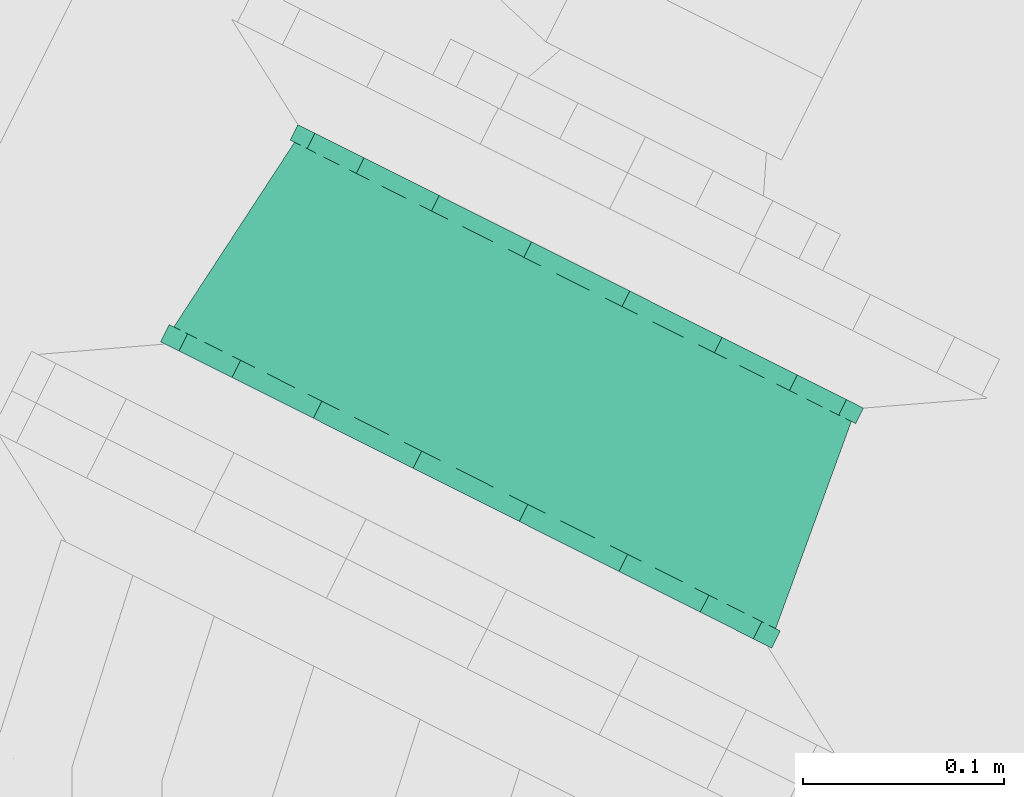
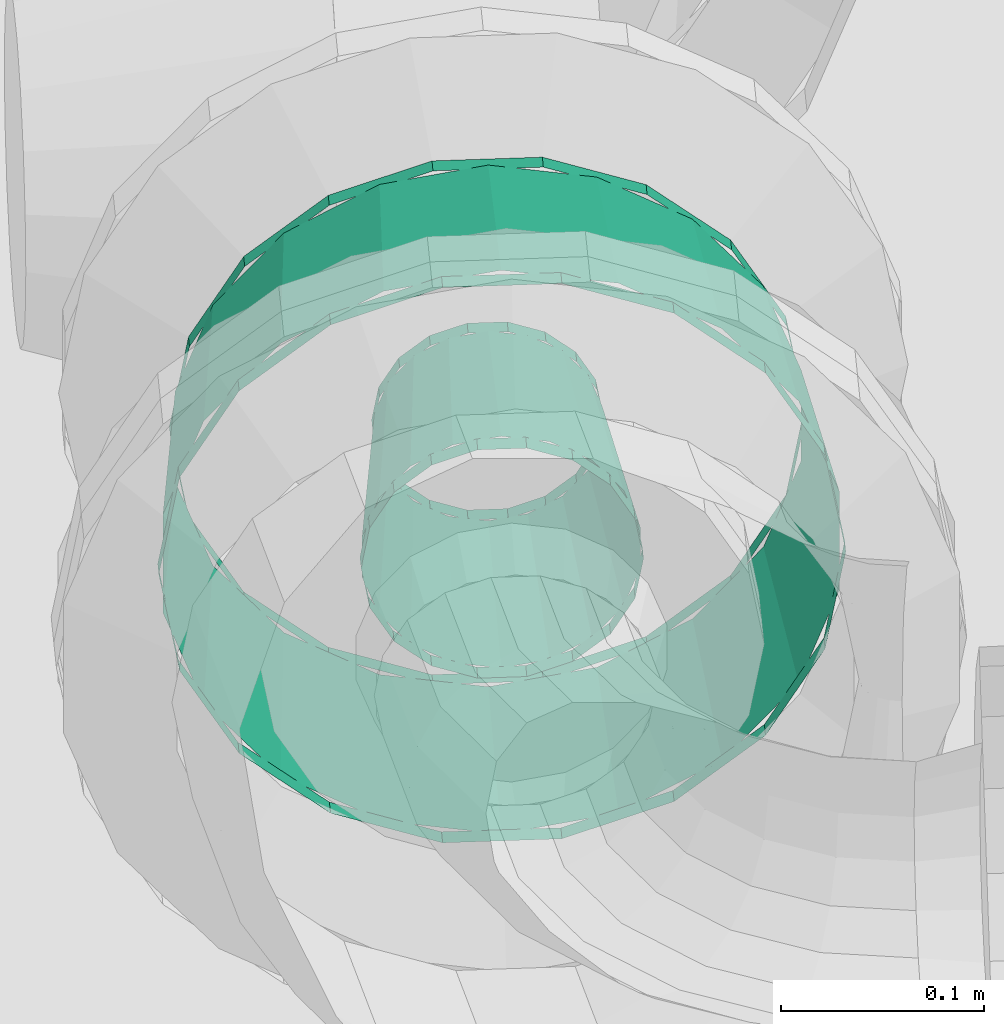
# One storey, part 108 of 206: 1 flow fitting.
"""IFC2X3 building model written with IfcOpenShell, lengths in metres."""

from ifc_helpers import new_model, si_unit, derived_unit, direction, frame, origin, place, context, subcontext, project, spatial, face_set, surface_model, source, transform, mapped, material, type_object, type_shapes, element, save


model = new_model("IFC2X3")

# Units and contexts
model_context = context("Model", 3, precision=5.2338327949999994e-05, world=origin(), true_north=direction((0.0, 1.0)))
body_context = subcontext(model_context, "Body", "Model", "MODEL_VIEW")
ifc_project = project(units=[si_unit("LENGTHUNIT", "METRE"), si_unit("AREAUNIT", "SQUARE_METRE"), si_unit("VOLUMEUNIT", "CUBIC_METRE"), si_unit("MASSUNIT", "GRAM", prefix="KILO"), si_unit("PLANEANGLEUNIT", "RADIAN"), derived_unit("THERMALTRANSMITTANCEUNIT", [(si_unit("MASSUNIT", "GRAM", prefix="KILO"), 1), (si_unit("THERMODYNAMICTEMPERATUREUNIT", "KELVIN"), -1), (si_unit("TIMEUNIT", "SECOND"), -3)])], contexts=[model_context])

# Site, building, storey
site_placement = place(None, frame((0.0, 0.0, 0.0), z_axis=(0.0, 0.0, 1.0), x_axis=(0.8939966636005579, -0.4480736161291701, 0.0)))
site = spatial("IfcSite", under=ifc_project, at=site_placement, Name="Default", CompositionType="ELEMENT")
building_placement = place(site_placement, origin())
building = spatial("IfcBuilding", under=site, at=building_placement, CompositionType="ELEMENT")
storey_placement = place(building_placement, origin())
storey = spatial("IfcBuildingStorey", under=building, at=storey_placement, Name="Erdgeschoss", CompositionType="ELEMENT", Elevation=0.0)

# Flow fitting
ifc_material = material(Name="IfcSurfaceStyle #1741")
distribution_element_type = type_object("IfcDistributionElementType", Name="Übergangsstück 317721:Übergangsstück 317721", material=ifc_material)
shared_shape = source(origin(), body_context, "Body", "SurfaceModel", [
    surface_model("IfcFaceBasedSurfaceModel", [(23.01500389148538, 5.695961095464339, 2.354), (23.019216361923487, 5.695961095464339, 2.3778901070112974), (23.019216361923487, 5.70549026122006, 2.3778901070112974), (23.01500389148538, 5.70549026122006, 2.354), (23.03134568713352, 5.695961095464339, 2.3988987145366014), (23.03134568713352, 5.70549026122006, 2.3988987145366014), (23.049928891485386, 5.695961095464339, 2.4144918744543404), (23.049928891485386, 5.70549026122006, 2.4144918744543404), (23.07272456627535, 5.695961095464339, 2.422788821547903), (23.07272456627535, 5.70549026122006, 2.422788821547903), (23.096983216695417, 5.695961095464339, 2.422788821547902), (23.096983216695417, 5.70549026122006, 2.422788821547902), (23.11977889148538, 5.695961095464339, 2.4144918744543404), (23.11977889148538, 5.70549026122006, 2.4144918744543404), (23.13836209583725, 5.695961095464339, 2.3988987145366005), (23.13836209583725, 5.70549026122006, 2.3988987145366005), (23.15049142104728, 5.695961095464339, 2.377890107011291), (23.15049142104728, 5.70549026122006, 2.377890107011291), (23.154703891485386, 5.695961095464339, 2.353999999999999), (23.154703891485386, 5.70549026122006, 2.353999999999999), (23.15049142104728, 5.695961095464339, 2.3301098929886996), (23.15049142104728, 5.70549026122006, 2.3301098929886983), (23.13836209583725, 5.695961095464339, 2.309101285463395), (23.13836209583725, 5.70549026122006, 2.309101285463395), (23.11977889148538, 5.695961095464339, 2.2935081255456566), (23.11977889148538, 5.70549026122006, 2.2935081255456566), (23.096983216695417, 5.695961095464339, 2.285211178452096), (23.096983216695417, 5.70549026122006, 2.285211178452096), (23.07272456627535, 5.695961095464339, 2.285211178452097), (23.07272456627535, 5.70549026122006, 2.285211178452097), (23.049928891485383, 5.695961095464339, 2.293508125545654), (23.049928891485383, 5.70549026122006, 2.293508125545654), (23.031345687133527, 5.695961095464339, 2.309101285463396), (23.031345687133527, 5.70549026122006, 2.309101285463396), (23.019216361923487, 5.695961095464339, 2.3301098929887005), (23.019216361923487, 5.70549026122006, 2.3301098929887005), (22.915003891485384, 5.695961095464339, 2.3540000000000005), (22.925247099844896, 5.695961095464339, 2.4120921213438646), (22.925247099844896, 5.70549026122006, 2.4120921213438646), (22.915003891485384, 5.70549026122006, 2.3540000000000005), (22.95474124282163, 5.695961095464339, 2.4631774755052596), (22.95474124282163, 5.70549026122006, 2.4631774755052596), (22.999928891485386, 5.695961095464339, 2.5010944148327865), (22.999928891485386, 5.70549026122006, 2.5010944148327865), (23.05535974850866, 5.695961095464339, 2.521269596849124), (23.05535974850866, 5.70549026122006, 2.521269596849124), (23.114348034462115, 5.695961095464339, 2.5212695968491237), (23.114348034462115, 5.70549026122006, 2.5212695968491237), (23.169778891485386, 5.695961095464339, 2.5010944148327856), (23.169778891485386, 5.70549026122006, 2.5010944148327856), (23.214966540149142, 5.695961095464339, 2.4631774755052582), (23.214966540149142, 5.70549026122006, 2.4631774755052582), (23.244460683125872, 5.695961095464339, 2.4120921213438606), (23.244460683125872, 5.70549026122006, 2.4120921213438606), (23.254703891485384, 5.695961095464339, 2.3539999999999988), (23.254703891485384, 5.70549026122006, 2.3539999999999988), (23.244460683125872, 5.695961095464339, 2.295907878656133), (23.244460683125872, 5.70549026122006, 2.295907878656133), (23.21496654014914, 5.695961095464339, 2.2448225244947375), (23.21496654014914, 5.70549026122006, 2.2448225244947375), (23.169778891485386, 5.695961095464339, 2.2069055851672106), (23.169778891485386, 5.70549026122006, 2.2069055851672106), (23.114348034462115, 5.695961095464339, 2.1867304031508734), (23.114348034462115, 5.70549026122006, 2.1867304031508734), (23.055359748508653, 5.695961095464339, 2.1867304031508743), (23.055359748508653, 5.70549026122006, 2.1867304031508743), (22.999928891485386, 5.695961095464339, 2.206905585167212), (22.999928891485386, 5.70549026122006, 2.206905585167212), (22.954741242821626, 5.695961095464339, 2.244822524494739), (22.954741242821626, 5.70549026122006, 2.244822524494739), (22.925247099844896, 5.695961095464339, 2.2959078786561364), (22.925247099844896, 5.70549026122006, 2.2959078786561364), (23.084853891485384, 5.70549026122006, 2.4238499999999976), (23.10874399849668, 5.70549026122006, 2.4196375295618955), (23.10440034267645, 5.814341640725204, 2.407703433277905), (23.084853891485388, 5.814341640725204, 2.4111499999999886), (23.12975260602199, 5.70549026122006, 2.407508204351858), (23.121589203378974, 5.814341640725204, 2.397779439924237), (23.145345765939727, 5.70549026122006, 2.388924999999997), (23.134347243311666, 5.814341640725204, 2.382574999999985), (23.15364271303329, 5.70549026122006, 2.3661293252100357), (23.14113565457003, 5.814341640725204, 2.3639239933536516), (23.153642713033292, 5.70549026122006, 2.3418706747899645), (23.14113565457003, 5.814341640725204, 2.3440760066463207), (23.145345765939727, 5.70549026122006, 2.3190749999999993), (23.134347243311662, 5.814341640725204, 2.325424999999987), (23.129752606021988, 5.70549026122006, 2.300491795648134), (23.12158920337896, 5.814341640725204, 2.3102205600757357), (23.10874399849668, 5.70549026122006, 2.2883624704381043), (23.10440034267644, 5.814341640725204, 2.300296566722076), (23.084853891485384, 5.70549026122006, 2.284149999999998), (23.084853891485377, 5.814341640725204, 2.296849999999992), (23.060963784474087, 5.70549026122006, 2.288362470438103), (23.065307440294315, 5.814341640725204, 2.300296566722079), (23.039955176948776, 5.70549026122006, 2.3004917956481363), (23.048118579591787, 5.814341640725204, 2.3102205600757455), (23.02436201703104, 5.70549026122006, 2.319074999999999), (23.0353605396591, 5.814341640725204, 2.325424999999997), (23.016065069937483, 5.70549026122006, 2.3418706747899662), (23.028572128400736, 5.814341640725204, 2.3440760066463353), (23.016065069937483, 5.70549026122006, 2.366129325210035), (23.028572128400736, 5.814341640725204, 2.3639239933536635), (23.02436201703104, 5.70549026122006, 2.388924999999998), (23.035360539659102, 5.814341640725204, 2.3825749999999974), (23.039955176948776, 5.70549026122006, 2.4075082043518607), (23.0481185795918, 5.814341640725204, 2.3977794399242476), (23.060963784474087, 5.70549026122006, 2.419637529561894), (23.065307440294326, 5.814341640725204, 2.407703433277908), (23.02770389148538, 5.814341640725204, 2.3539999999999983), (23.03115045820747, 5.814341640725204, 2.3735464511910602), (23.03115045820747, 5.82296109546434, 2.3735464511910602), (23.02770389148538, 5.82296109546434, 2.3539999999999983), (23.04107445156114, 5.814341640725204, 2.390735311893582), (23.04107445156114, 5.82296109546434, 2.390735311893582), (23.056278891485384, 5.814341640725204, 2.403493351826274), (23.056278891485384, 5.82296109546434, 2.403493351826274), (23.074929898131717, 5.814341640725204, 2.4102817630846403), (23.074929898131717, 5.82296109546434, 2.4102817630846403), (23.094777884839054, 5.814341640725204, 2.4102817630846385), (23.094777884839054, 5.82296109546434, 2.4102817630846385), (23.113428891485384, 5.814341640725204, 2.403493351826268), (23.113428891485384, 5.82296109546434, 2.403493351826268), (23.128633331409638, 5.814341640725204, 2.390735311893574), (23.128633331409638, 5.82296109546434, 2.390735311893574), (23.138557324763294, 5.814341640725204, 2.37354645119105), (23.138557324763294, 5.82296109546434, 2.37354645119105), (23.142003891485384, 5.814341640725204, 2.353999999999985), (23.142003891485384, 5.82296109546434, 2.353999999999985), (23.13855732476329, 5.814341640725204, 2.3344535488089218), (23.13855732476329, 5.82296109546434, 2.3344535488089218), (23.128633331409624, 5.814341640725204, 2.3172646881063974), (23.128633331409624, 5.82296109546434, 2.3172646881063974), (23.113428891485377, 5.814341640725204, 2.3045066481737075), (23.113428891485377, 5.82296109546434, 2.3045066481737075), (23.09477788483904, 5.814341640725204, 2.2977182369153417), (23.09477788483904, 5.82296109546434, 2.2977182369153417), (23.07492989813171, 5.814341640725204, 2.297718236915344), (23.07492989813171, 5.82296109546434, 2.297718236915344), (23.056278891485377, 5.814341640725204, 2.3045066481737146), (23.056278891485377, 5.82296109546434, 2.3045066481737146), (23.041074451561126, 5.814341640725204, 2.317264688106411), (23.041074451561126, 5.82296109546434, 2.317264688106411), (23.031150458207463, 5.814341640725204, 2.3344535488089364), (23.031150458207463, 5.82296109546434, 2.3344535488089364), (23.084853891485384, 5.70549026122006, 2.523850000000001), (23.142946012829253, 5.70549026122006, 2.5136067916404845), (23.138602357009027, 5.814341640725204, 2.5016726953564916), (23.0848538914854, 5.814341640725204, 2.511149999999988), (23.194031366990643, 5.70549026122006, 2.484112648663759), (23.185867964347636, 5.814341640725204, 2.4743838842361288), (23.23194830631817, 5.70549026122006, 2.438924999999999), (23.220949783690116, 5.814341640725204, 2.4325749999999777), (23.252123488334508, 5.70549026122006, 2.383494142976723), (23.23961642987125, 5.814341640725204, 2.381288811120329), (23.252123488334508, 5.70549026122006, 2.32450585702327), (23.239616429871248, 5.814341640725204, 2.3267111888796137), (23.23194830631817, 5.70549026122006, 2.269074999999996), (23.220949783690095, 5.814341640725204, 2.275424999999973), (23.194031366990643, 5.70549026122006, 2.2238873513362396), (23.1858679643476, 5.814341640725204, 2.233616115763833), (23.14294601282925, 5.70549026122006, 2.1943932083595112), (23.138602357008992, 5.814341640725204, 2.2063273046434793), (23.084853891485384, 5.70549026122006, 2.1841499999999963), (23.08485389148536, 5.814341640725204, 2.196849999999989), (23.026761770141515, 5.70549026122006, 2.194393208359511), (23.031105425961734, 5.814341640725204, 2.206327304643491), (22.97567641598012, 5.70549026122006, 2.223887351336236), (22.983839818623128, 5.814341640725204, 2.233616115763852), (22.937759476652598, 5.70549026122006, 2.269075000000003), (22.948757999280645, 5.814341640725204, 2.2754250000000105), (22.917584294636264, 5.70549026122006, 2.3245058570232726), (22.930091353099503, 5.814341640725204, 2.3267111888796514), (22.917584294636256, 5.70549026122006, 2.3834941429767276), (22.930091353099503, 5.814341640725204, 2.3812888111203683), (22.937759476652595, 5.70549026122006, 2.438925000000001), (22.948757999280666, 5.814341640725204, 2.4325750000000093), (22.975676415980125, 5.70549026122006, 2.4841126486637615), (22.983839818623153, 5.814341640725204, 2.4743838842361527), (23.026761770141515, 5.70549026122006, 2.5136067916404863), (23.031105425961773, 5.814341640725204, 2.5016726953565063), (22.927703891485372, 5.814341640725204, 2.35400000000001), (22.937181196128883, 5.814341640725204, 2.4077484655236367), (22.937181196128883, 5.82296109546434, 2.4077484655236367), (22.927703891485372, 5.82296109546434, 2.35400000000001), (22.964470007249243, 5.814341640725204, 2.455014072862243), (22.964470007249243, 5.82296109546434, 2.455014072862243), (23.00627889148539, 5.814341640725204, 2.490095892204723), (23.00627889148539, 5.82296109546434, 2.490095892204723), (23.057565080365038, 5.814341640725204, 2.508762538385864), (23.057565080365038, 5.82296109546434, 2.508762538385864), (23.112142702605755, 5.814341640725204, 2.5087625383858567), (23.112142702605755, 5.82296109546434, 2.5087625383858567), (23.163428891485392, 5.814341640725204, 2.4900958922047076), (23.163428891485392, 5.82296109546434, 2.4900958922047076), (23.20523777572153, 5.814341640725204, 2.455014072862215), (23.20523777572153, 5.82296109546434, 2.455014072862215), (23.232526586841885, 5.814341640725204, 2.4077484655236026), (23.232526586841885, 5.82296109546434, 2.4077484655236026), (23.24200389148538, 5.814341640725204, 2.353999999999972), (23.24200389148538, 5.82296109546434, 2.353999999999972), (23.232526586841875, 5.814341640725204, 2.300251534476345), (23.232526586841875, 5.82296109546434, 2.300251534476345), (23.205237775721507, 5.814341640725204, 2.252985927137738), (23.205237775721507, 5.82296109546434, 2.252985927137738), (23.16342889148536, 5.814341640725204, 2.21790410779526), (23.16342889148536, 5.82296109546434, 2.21790410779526), (23.11214270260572, 5.814341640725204, 2.1992374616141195), (23.11214270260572, 5.82296109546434, 2.1992374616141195), (23.057565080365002, 5.814341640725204, 2.199237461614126), (23.057565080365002, 5.82296109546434, 2.199237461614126), (23.00627889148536, 5.814341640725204, 2.2179041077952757), (23.00627889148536, 5.82296109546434, 2.2179041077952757), (22.964470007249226, 5.814341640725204, 2.252985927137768), (22.964470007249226, 5.82296109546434, 2.252985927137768), (22.93718119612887, 5.814341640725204, 2.3002515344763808), (22.93718119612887, 5.82296109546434, 2.3002515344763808)], [face_set([[[0, 1, 2, 3]], [[1, 4, 5, 2]], [[4, 6, 7, 5]], [[6, 8, 9, 7]], [[8, 10, 11, 9]], [[10, 12, 13, 11]], [[12, 14, 15, 13]], [[14, 16, 17, 15]], [[16, 18, 19, 17]], [[18, 20, 21, 19]], [[20, 22, 23, 21]], [[22, 24, 25, 23]], [[24, 26, 27, 25]], [[26, 28, 29, 27]], [[28, 30, 31, 29]], [[30, 32, 33, 31]], [[32, 34, 35, 33]], [[34, 0, 3, 35]], [[36, 37, 38, 39]], [[37, 40, 41, 38]], [[40, 42, 43, 41]], [[42, 44, 45, 43]], [[44, 46, 47, 45]], [[46, 48, 49, 47]], [[48, 50, 51, 49]], [[50, 52, 53, 51]], [[52, 54, 55, 53]], [[54, 56, 57, 55]], [[56, 58, 59, 57]], [[58, 60, 61, 59]], [[60, 62, 63, 61]], [[62, 64, 65, 63]], [[64, 66, 67, 65]], [[66, 68, 69, 67]], [[68, 70, 71, 69]], [[70, 36, 39, 71]], [[72, 73, 74, 75]], [[73, 76, 77, 74]], [[76, 78, 79, 77]], [[78, 80, 81, 79]], [[80, 82, 83, 81]], [[82, 84, 85, 83]], [[84, 86, 87, 85]], [[86, 88, 89, 87]], [[88, 90, 91, 89]], [[90, 92, 93, 91]], [[92, 94, 95, 93]], [[94, 96, 97, 95]], [[96, 98, 99, 97]], [[98, 100, 101, 99]], [[100, 102, 103, 101]], [[102, 104, 105, 103]], [[104, 106, 107, 105]], [[106, 72, 75, 107]], [[108, 109, 110, 111]], [[109, 112, 113, 110]], [[112, 114, 115, 113]], [[114, 116, 117, 115]], [[116, 118, 119, 117]], [[118, 120, 121, 119]], [[120, 122, 123, 121]], [[122, 124, 125, 123]], [[124, 126, 127, 125]], [[126, 128, 129, 127]], [[128, 130, 131, 129]], [[130, 132, 133, 131]], [[132, 134, 135, 133]], [[134, 136, 137, 135]], [[136, 138, 139, 137]], [[138, 140, 141, 139]], [[140, 142, 143, 141]], [[142, 108, 111, 143]], [[144, 145, 146, 147]], [[145, 148, 149, 146]], [[148, 150, 151, 149]], [[150, 152, 153, 151]], [[152, 154, 155, 153]], [[154, 156, 157, 155]], [[156, 158, 159, 157]], [[158, 160, 161, 159]], [[160, 162, 163, 161]], [[162, 164, 165, 163]], [[164, 166, 167, 165]], [[166, 168, 169, 167]], [[168, 170, 171, 169]], [[170, 172, 173, 171]], [[172, 174, 175, 173]], [[174, 176, 177, 175]], [[176, 178, 179, 177]], [[178, 144, 147, 179]], [[180, 181, 182, 183]], [[181, 184, 185, 182]], [[184, 186, 187, 185]], [[186, 188, 189, 187]], [[188, 190, 191, 189]], [[190, 192, 193, 191]], [[192, 194, 195, 193]], [[194, 196, 197, 195]], [[196, 198, 199, 197]], [[198, 200, 201, 199]], [[200, 202, 203, 201]], [[202, 204, 205, 203]], [[204, 206, 207, 205]], [[206, 208, 209, 207]], [[208, 210, 211, 209]], [[210, 212, 213, 211]], [[212, 214, 215, 213]], [[214, 180, 183, 215]]])]),
])
type_shapes(distribution_element_type, [shared_shape])
flow_fitting_placement = place(storey_placement, origin())
element("IfcFlowFitting", 1, at=flow_fitting_placement, inside=storey, type_object=distribution_element_type, material=ifc_material, Name="Übergangsstück", ObjectType="Übergangsstück", context=body_context, shape_type="MappedRepresentation", body=[
    mapped(shared_shape, transform((0.0, 0.0, 0.0), scale=1.0)),
])

save(model, "model.ifc")
